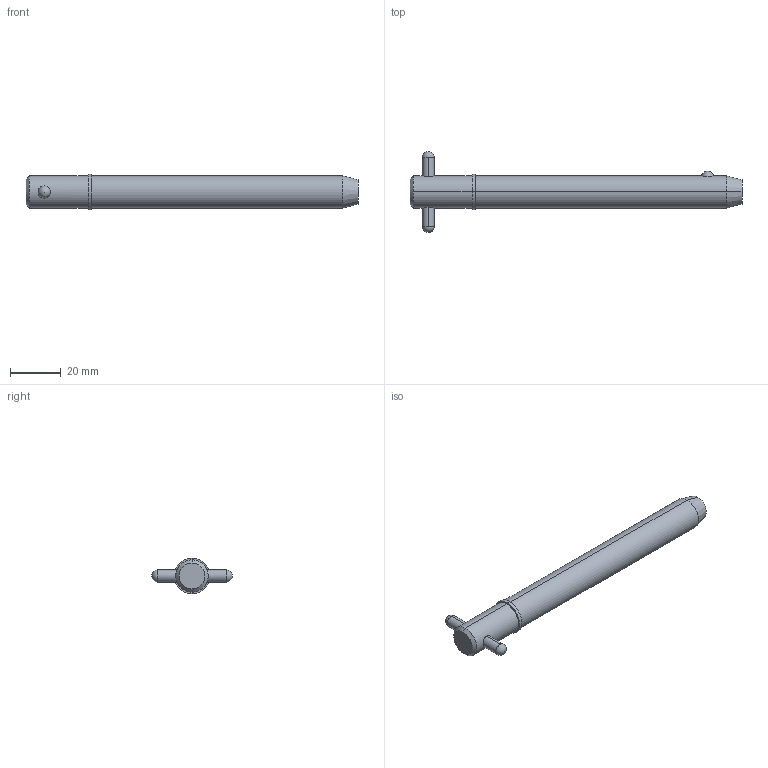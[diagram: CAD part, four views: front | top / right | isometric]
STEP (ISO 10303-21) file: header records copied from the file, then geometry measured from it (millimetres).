
FILE_DESCRIPTION (( 'STEP AP203' ), '1' );
FILE_NAME ('Default.step', '2024-11-19T17:06:21', ( '' ), ( '' ), 'SwSTEP 2.0', 'SolidWorks 2019', '' );
FILE_SCHEMA (( 'CONFIG_CONTROL_DESIGN' ));
Length unit declared in the file: millimetre
Products named in the file (3): Part2; Default; Part1
Assembly tree (2 placements, depth 2):
  Default
    Part1
    Part2
Bounding box: 130.48 x 31.75 x 13.97 mm (x, y, z)
Volume: 16695.5 mm3; surface area: 6042.2 mm2
Topology: 2 solids, 2 shells, 22 faces, 47 edges, 30 vertices
Faces by surface type: cylinder 10, sphere 4, cone 4, plane 4
Entity records: 1043 total; most frequent: CARTESIAN_POINT 286, DIRECTION 110, ORIENTED_EDGE 82, AXIS2_PLACEMENT_3D 48, EDGE_CURVE 41, EDGE_LOOP 27, VERTEX_POINT 26, PERSON_AND_ORGANIZATION 26
